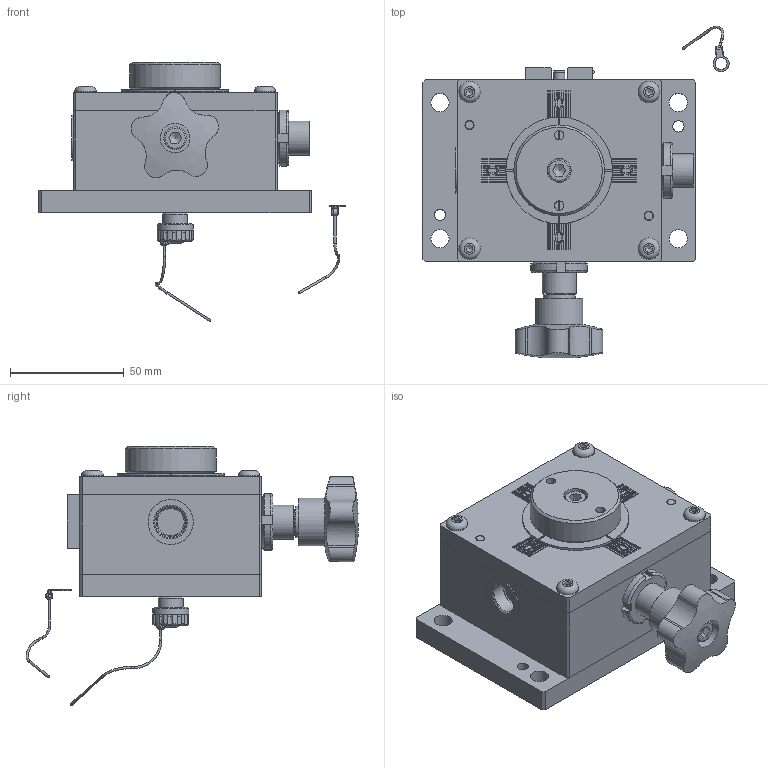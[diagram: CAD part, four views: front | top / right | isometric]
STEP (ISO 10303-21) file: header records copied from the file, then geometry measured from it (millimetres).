
FILE_DESCRIPTION(/* description */ (''),/* implementation_level */ '2;1');
FILE_NAME(/* name */ 'C:\Local Work Area\Progetti\AP\CALIBRI\146.00 Posizionatore\146.00\146.00-L-X.stp',/* time_stamp */ '2020-02-20T14:58:50+01:00',/* author */ ('CAD5'),/* organization */ (''),/* preprocessor_version */ 'ST-DEVELOPER v17.2',/* originating_system */ 'Autodesk Inventor 2019',/* authorisation */ '');
FILE_SCHEMA (('AUTOMOTIVE_DESIGN { 1 0 10303 214 3 1 1 }'));
Length unit declared in the file: millimetre
Products named in the file (35): 146.00-L-X; 146.03; 146.01; 146.07; 146.08; 146.02; 146.00_002 Ass manopola-01; UNI 5931 - M 6 x  30; Manopola mecanoplastica 12010250; B12.5 UNI8773; 146.00_002 Ass manopola-02; 146.09; 146.10; UNI 5933 - M4 x 20; UNI 5923 - M6 x 1 x 8; GHIERA M15x1 KM2; UNI 5931 - M5 x 0,8 x 16; ISO 2338 - 5 m6 x 20 - A; Copia di ISO 7380 - M5 x 16; ISO 2338 - 5 m6 x 12 - A; 146.06; UNI 5927 - M5 x 6; 146.00_001 Attrezzatura; 146.04; 146.05; UNI 5931 - M 6 x  20; 146.00 Ass spina; ISO 8735 - 8 x 35 - A; VOLANTINO ZIGRINATO - 130 10 100; catenella; catenella-1; catenella-2; UNI ISO 7380 - M5 x 20; TAPPO_001; ISO 8734 - Ø4 x 16 - A (AP)
Assembly tree (48 placements, depth 4):
  146.00-L-X
    146.03
    146.01
    146.07
    146.08
    146.02
    146.00_002 Ass manopola-01
      146.09
      UNI 5931 - M 6 x  30
      Manopola mecanoplastica 12010250
      146.10
      UNI 5933 - M4 x 20
      UNI 5923 - M6 x 1 x 8
      B12.5 UNI8773  x2
    146.00_002 Ass manopola-02
      146.09
      146.10
      UNI 5933 - M4 x 20
      UNI 5923 - M6 x 1 x 8
    GHIERA M15x1 KM2  x2
    UNI 5931 - M5 x 0,8 x 16  x4
    ISO 2338 - 5 m6 x 20 - A  x2
    Copia di ISO 7380 - M5 x 16  x4
    ISO 2338 - 5 m6 x 12 - A
    146.06
    UNI 5927 - M5 x 6
    146.00_001 Attrezzatura
      146.04
      146.05
      UNI 5931 - M 6 x  20
    146.00 Ass spina
      ISO 8735 - 8 x 35 - A
      VOLANTINO ZIGRINATO - 130 10 100
      catenella
        catenella-1
        catenella-2
      UNI ISO 7380 - M5 x 20
    TAPPO_001
    ISO 8734 - Ø4 x 16 - A (AP)  x2
Bounding box: 134.82 x 146.22 x 114.1 mm (x, y, z)
Volume: 392917.1 mm3; surface area: 135144.6 mm2
Topology: 45 solids, 45 shells, 1083 faces, 2806 edges, 1911 vertices
Faces by surface type: plane 674, cylinder 207, cone 96, bspline 54, torus 51, sphere 1
Full cylindrical faces by diameter (mm): 1 x6, 3.242 x2, 4 x8, 4.1 x2, 4.134 x14, 4.135 x1, 4.917 x4, 5 x25, 5.2 x2, 5.3 x1, 5.333 x1, 6 x5, 6.1 x1, 6.4 x2, 6.5 x4, 7.64 x2, 8 x15, 8.5 x4, 9 x4, 9.5 x5, 10 x2, 10.5 x1, 11 x1, 11.5 x4, 12 x5, 12.9 x1, 13 x1, 13.867 x1, 13.9 x1, 13.917 x3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
Entity records: 30746 total; most frequent: CARTESIAN_POINT 6693, ORIENTED_EDGE 4664, DIRECTION 4581, EDGE_CURVE 2332, VERTEX_POINT 1604, AXIS2_PLACEMENT_3D 1567, LINE 1447, VECTOR 1447
